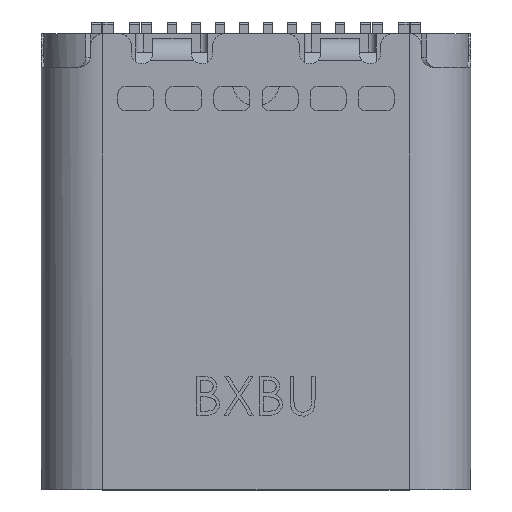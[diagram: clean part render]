
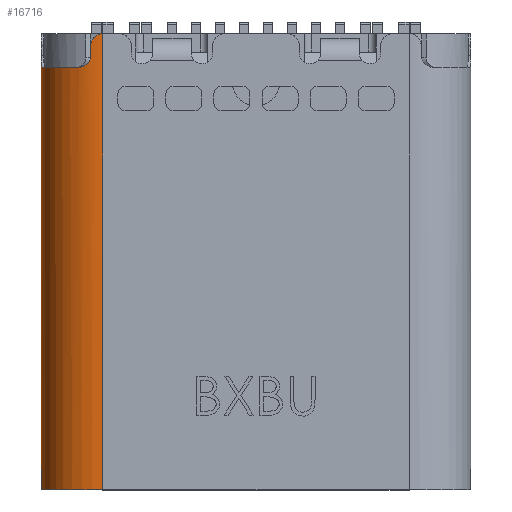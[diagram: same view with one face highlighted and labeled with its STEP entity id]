
A CAD part, top view. The second image highlights one B-rep face of the part: STEP entity #16716.
In plain terms, the highlighted cylindrical face has radius 1.28 mm (diameter 2.56 mm), a partial arc.
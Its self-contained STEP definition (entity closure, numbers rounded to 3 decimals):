
#11269=CARTESIAN_POINT('',(20.025,11.38,50.65));
#11270=VERTEX_POINT('',#11269);
#11277=CARTESIAN_POINT('',(20.78,11.38,51.578));
#11278=VERTEX_POINT('',#11277);
#11279=CARTESIAN_POINT('',(21.28,11.38,50.4));
#11280=DIRECTION('',(-0.0,-1.0,-0.0));
#11281=DIRECTION('',(1.0,0.0,-0.0));
#11282=AXIS2_PLACEMENT_3D('',#11279,#11280,#11281);
#11283=CIRCLE('',#11282,1.28);
#11284=EDGE_CURVE('no 836',#11278,#11270,#11283,.T.);
#13373=CARTESIAN_POINT('',(21.28,2.58,51.68));
#13374=VERTEX_POINT('',#13373);
#13381=CARTESIAN_POINT('',(20.,2.58,50.4));
#13382=VERTEX_POINT('',#13381);
#13383=CARTESIAN_POINT('',(21.28,2.58,50.4));
#13384=DIRECTION('',(-0.0,-1.0,-0.0));
#13385=DIRECTION('',(-1.0,0.0,0.0));
#13386=AXIS2_PLACEMENT_3D('',#13383,#13384,#13385);
#13387=CIRCLE('',#13386,1.28);
#13388=EDGE_CURVE('no 14050',#13374,#13382,#13387,.T.);
#15029=CARTESIAN_POINT('',(20.,11.63,50.4));
#15030=VERTEX_POINT('',#15029);
#15031=CARTESIAN_POINT('',(20.,11.63,50.4));
#15032=CARTESIAN_POINT('',(20.,8.613,50.4));
#15033=CARTESIAN_POINT('',(20.,5.597,50.4));
#15034=CARTESIAN_POINT('',(20.,2.58,50.4));
#15035=B_SPLINE_CURVE_WITH_KNOTS('',3,(#15031,#15032,#15033,#15034),.UNSPECIFIED.,.F.,.U.,
 (4,4),(0.0,9.05),.UNSPECIFIED.);
#15036=EDGE_CURVE('no 6595',#15030,#13382,#15035,.T.);
#16649=CARTESIAN_POINT('',(20.025,11.38,50.65));
#16650=CARTESIAN_POINT('',(20.012,11.38,50.584));
#16651=CARTESIAN_POINT('',(20.005,11.406,50.521));
#16652=CARTESIAN_POINT('',(19.999,11.499,50.427));
#16653=CARTESIAN_POINT('',(20.,11.564,50.4));
#16654=CARTESIAN_POINT('',(20.,11.63,50.4));
#16655=B_SPLINE_CURVE_WITH_KNOTS('',3,(#16649,#16650,#16651,#16652,#16653,#16654),.UNSPECIFIED.,.F.,.U.,
 (4,2,4),(0.0,0.5,1.0),.UNSPECIFIED.);
#16656=EDGE_CURVE('no 13451',#11270,#15030,#16655,.T.);
#16667=ORIENTED_EDGE('no 5727',*,*,#13388,.F.);
#16668=CARTESIAN_POINT('',(21.28,12.08,51.68));
#16669=VERTEX_POINT('',#16668);
#16670=CARTESIAN_POINT('',(21.28,12.08,51.68));
#16671=CARTESIAN_POINT('',(21.28,8.913,51.68));
#16672=CARTESIAN_POINT('',(21.28,5.747,51.68));
#16673=CARTESIAN_POINT('',(21.28,2.58,51.68));
#16674=B_SPLINE_CURVE_WITH_KNOTS('',3,(#16670,#16671,#16672,#16673),.UNSPECIFIED.,.F.,.U.,
 (4,4),(0.0,9.5),.UNSPECIFIED.);
#16675=EDGE_CURVE('no 1251',#16669,#13374,#16674,.T.);
#16676=ORIENTED_EDGE('no 9512',*,*,#16675,.F.);
#16677=CARTESIAN_POINT('',(21.03,11.83,51.655));
#16678=VERTEX_POINT('',#16677);
#16679=CARTESIAN_POINT('',(21.28,12.08,51.68));
#16680=CARTESIAN_POINT('',(21.214,12.08,51.68));
#16681=CARTESIAN_POINT('',(21.15,12.054,51.674));
#16682=CARTESIAN_POINT('',(21.056,11.96,51.661));
#16683=CARTESIAN_POINT('',(21.03,11.897,51.655));
#16684=CARTESIAN_POINT('',(21.03,11.83,51.655));
#16685=B_SPLINE_CURVE_WITH_KNOTS('',3,(#16679,#16680,#16681,#16682,#16683,#16684),.UNSPECIFIED.,.F.,.U.,
 (4,2,4),(0.0,0.5,1.0),.UNSPECIFIED.);
#16686=EDGE_CURVE('no 13056',#16669,#16678,#16685,.T.);
#16687=ORIENTED_EDGE('no 18607',*,*,#16686,.T.);
#16688=CARTESIAN_POINT('',(21.03,11.63,51.655));
#16689=VERTEX_POINT('',#16688);
#16690=CARTESIAN_POINT('',(21.03,11.83,51.655));
#16691=CARTESIAN_POINT('',(21.03,11.763,51.655));
#16692=CARTESIAN_POINT('',(21.03,11.697,51.655));
#16693=CARTESIAN_POINT('',(21.03,11.63,51.655));
#16694=B_SPLINE_CURVE_WITH_KNOTS('',3,(#16690,#16691,#16692,#16693),.UNSPECIFIED.,.F.,.U.,
 (4,4),(0.0,1.0),.UNSPECIFIED.);
#16695=EDGE_CURVE('no 9985',#16678,#16689,#16694,.T.);
#16696=ORIENTED_EDGE('no 19111',*,*,#16695,.T.);
#16697=CARTESIAN_POINT('',(21.03,11.63,51.655));
#16698=CARTESIAN_POINT('',(21.03,11.561,51.655));
#16699=CARTESIAN_POINT('',(21.001,11.496,51.65));
#16700=CARTESIAN_POINT('',(20.906,11.404,51.625));
#16701=CARTESIAN_POINT('',(20.844,11.38,51.605));
#16702=CARTESIAN_POINT('',(20.78,11.38,51.578));
#16703=B_SPLINE_CURVE_WITH_KNOTS('',3,(#16697,#16698,#16699,#16700,#16701,#16702),.UNSPECIFIED.,.F.,.U.,
 (4,2,4),(0.0,0.5,1.0),.UNSPECIFIED.);
#16704=EDGE_CURVE('no 1690',#16689,#11278,#16703,.T.);
#16705=ORIENTED_EDGE('no 2250',*,*,#16704,.T.);
#16706=ORIENTED_EDGE('no 16864',*,*,#11284,.T.);
#16707=ORIENTED_EDGE('no 12720',*,*,#16656,.T.);
#16708=ORIENTED_EDGE('no 10630',*,*,#15036,.T.);
#16709=EDGE_LOOP('',(#16667,#16676,#16687,#16696,#16705,#16706,#16707,#16708));
#16710=FACE_OUTER_BOUND('',#16709,.T.);
#16711=CARTESIAN_POINT('',(21.28,12.28,50.4));
#16712=DIRECTION('',(-0.0,-1.0,-0.0));
#16713=DIRECTION('',(0.707,0.0,-0.707));
#16714=AXIS2_PLACEMENT_3D('',#16711,#16712,#16713);
#16715=CYLINDRICAL_SURFACE('',#16714,1.28);
#16716=ADVANCED_FACE('no 24911',(#16710),#16715,.T.);
